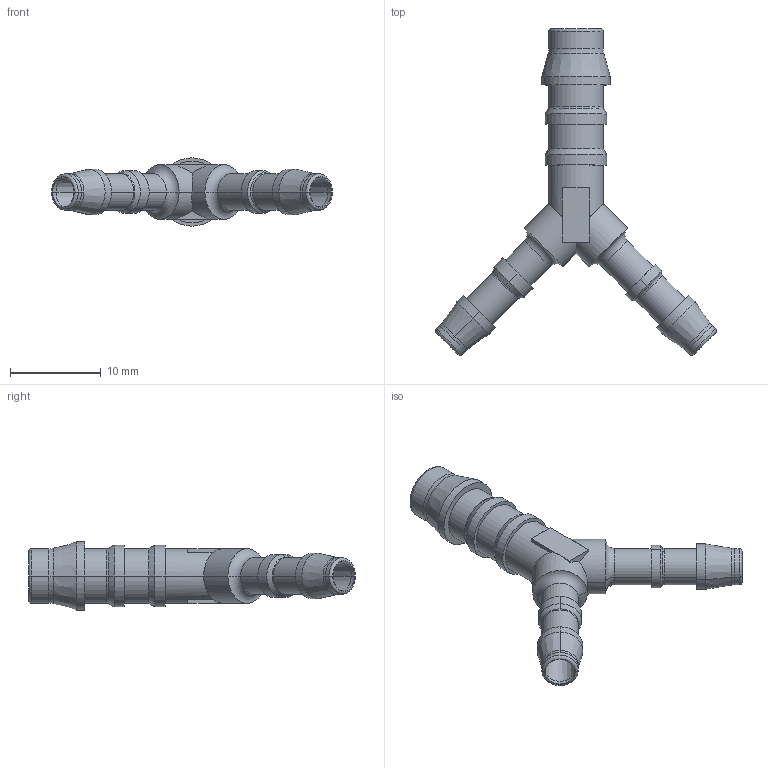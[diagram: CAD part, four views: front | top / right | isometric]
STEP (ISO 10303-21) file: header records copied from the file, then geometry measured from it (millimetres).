
FILE_DESCRIPTION (( 'STEP AP214' ), '1' );
FILE_NAME ('143100095GR00.STEP', '2024-05-07T13:21:47', ( '' ), ( '' ), 'SwSTEP 2.0', 'SolidWorks 2020', '' );
FILE_SCHEMA (( 'AUTOMOTIVE_DESIGN' ));
Length unit declared in the file: mil
Products named in the file (1): 143100095GR00
Bounding box: 30.86 x 35.93 x 7.5 mm (x, y, z)
Volume: 774.1 mm3; surface area: 1643.2 mm2
Topology: 1 solids, 1 shells, 137 faces, 304 edges, 176 vertices
Faces by surface type: cylinder 54, plane 35, torus 28, cone 20
Entity records: 4071 total; most frequent: CARTESIAN_POINT 943, DIRECTION 712, ORIENTED_EDGE 608, EDGE_CURVE 304, AXIS2_PLACEMENT_3D 302, VERTEX_POINT 176, CIRCLE 164, EDGE_LOOP 148
